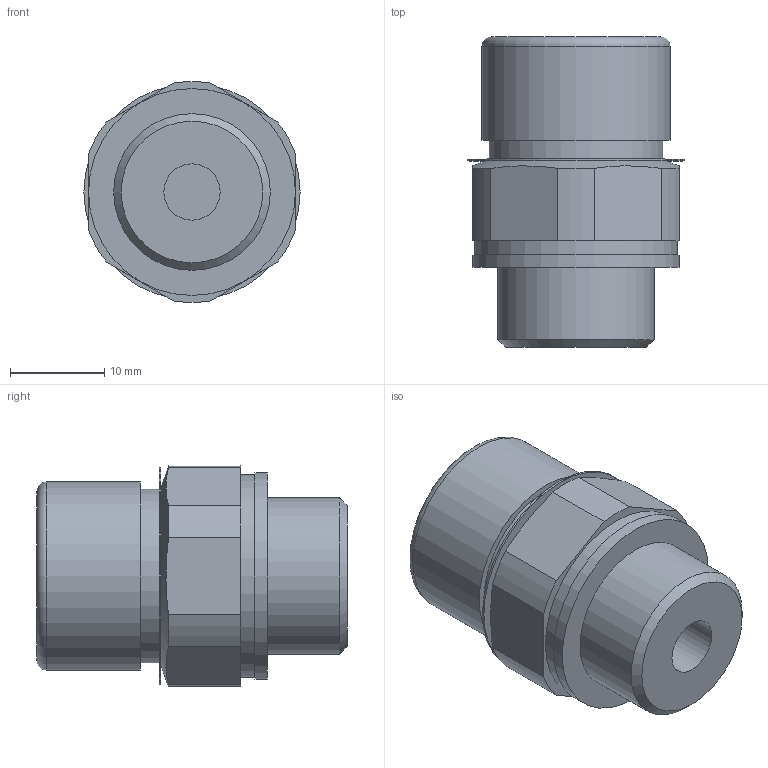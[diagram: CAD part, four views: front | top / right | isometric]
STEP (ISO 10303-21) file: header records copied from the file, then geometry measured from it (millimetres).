
FILE_DESCRIPTION( ( 'STEP AP203' ), '1' );
FILE_NAME( 'C:/Temp/Ganter_Step_05_03_2020/data/3_5/gn881/Breather valve GN 881-G3_8-200-MS-M.stp', '2020-03-12T13:42:36', ( 'License CC BY-ND 4.0' ), ( 'CADENAS' ), ' ', 'PARTsolutions', ' ' );
FILE_SCHEMA( ( 'CONFIG_CONTROL_DESIGN' ) );
Length unit declared in the file: millimetre
Products named in the file (1): _Breather valve GN 881-G3/8-200-MS-M
Bounding box: 23 x 33 x 23.46 mm (x, y, z)
Volume: 9943.3 mm3; surface area: 3506.6 mm2
Topology: 1 solids, 1 shells, 34 faces, 70 edges, 46 vertices
Faces by surface type: plane 16, cylinder 14, cone 3, torus 1
Full cylindrical faces by diameter (mm): 6 x1, 16.662 x1, 18.5 x1, 19 x1, 20 x1, 21.5 x1, 22 x1, 23 x1
Entity records: 890 total; most frequent: CARTESIAN_POINT 161, DIRECTION 152, ORIENTED_EDGE 112, AXIS2_PLACEMENT_3D 67, EDGE_CURVE 56, EDGE_LOOP 54, VERTEX_POINT 44, FACE_OUTER_BOUND 43
